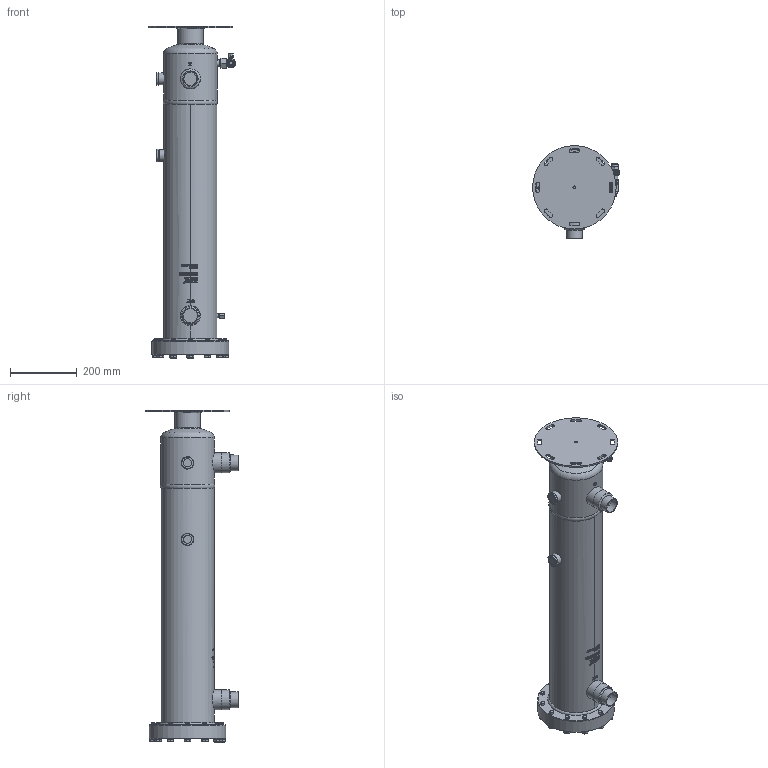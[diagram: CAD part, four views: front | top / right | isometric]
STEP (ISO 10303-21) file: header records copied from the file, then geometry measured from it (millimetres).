
FILE_DESCRIPTION(/* description */ (''),/* implementation_level */ '2;1');
FILE_NAME(/* name */ 'P:\OSR\BOS2-R-54_42F\BOS2-R-54_42F.stp',/* time_stamp */ '2019-08-21T10:30:38+02:00',/* author */ ('neufeld'),/* organization */ (''),/* preprocessor_version */ 'ST-DEVELOPER v17',/* originating_system */ 'Autodesk Inventor 2019',/* authorisation */ '');
FILE_SCHEMA (('AUTOMOTIVE_DESIGN { 1 0 10303 214 3 1 1 }'));
Length unit declared in the file: millimetre
Products named in the file (3): BOS2-R-54_42F_AG-Kunde; BOS2-R-54_42F_AG-Kunde_1; RAV-1"-10-CD
Assembly tree (2 placements, depth 2):
  BOS2-R-54_42F_AG-Kunde
    BOS2-R-54_42F_AG-Kunde_1
    RAV-1"-10-CD
Bounding box: 259.8 x 276.5 x 993.73 mm (x, y, z)
Volume: 20129846.2 mm3; surface area: 723640.5 mm2
Topology: 2 solids, 7 shells, 2119 faces, 5718 edges, 3795 vertices
Faces by surface type: plane 1034, bspline 529, cylinder 383, cone 161, torus 11, sphere 1
Full cylindrical faces by diameter (mm): 4 x1, 6.5 x1, 8.376 x1, 8.9 x1, 9 x1, 9.4 x1, 10.1 x1, 10.2 x1, 10.72 x1, 11 x1, 12 x25, 13 x1, 13.5 x1, 14 x1, 14.2 x1, 15.75 x1, 15.87 x1, 16.63 x12, 16.7 x1, 16.8 x1, 17.3 x1, 18 x1, 18.3 x1, 19 x1, 19.05 x1, 19.9 x1, 20 x3, 22.5 x2, 23 x1, 23.6 x1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
Entity records: 83700 total; most frequent: CARTESIAN_POINT 32091, ORIENTED_EDGE 11460, DIRECTION 9427, EDGE_CURVE 5730, VERTEX_POINT 3795, AXIS2_PLACEMENT_3D 3449, LINE 2529, VECTOR 2529
